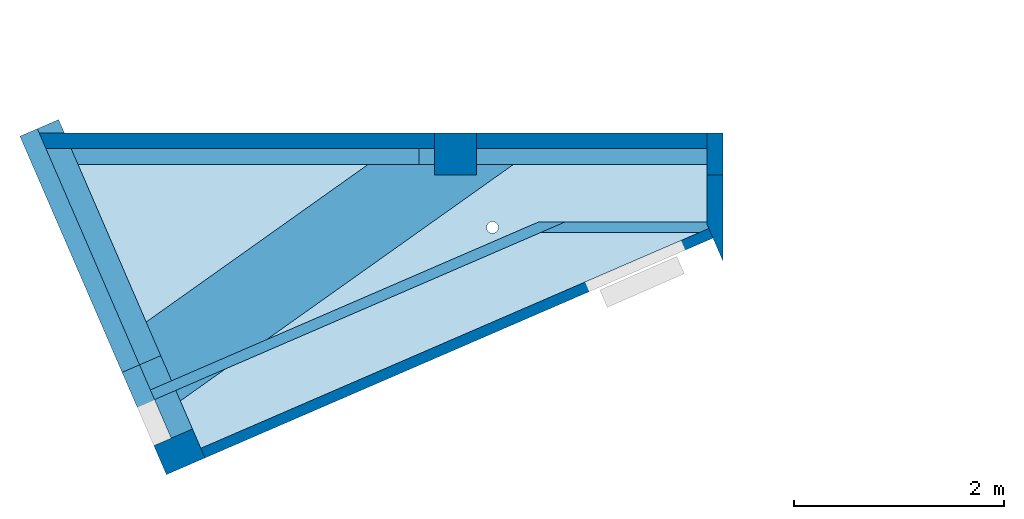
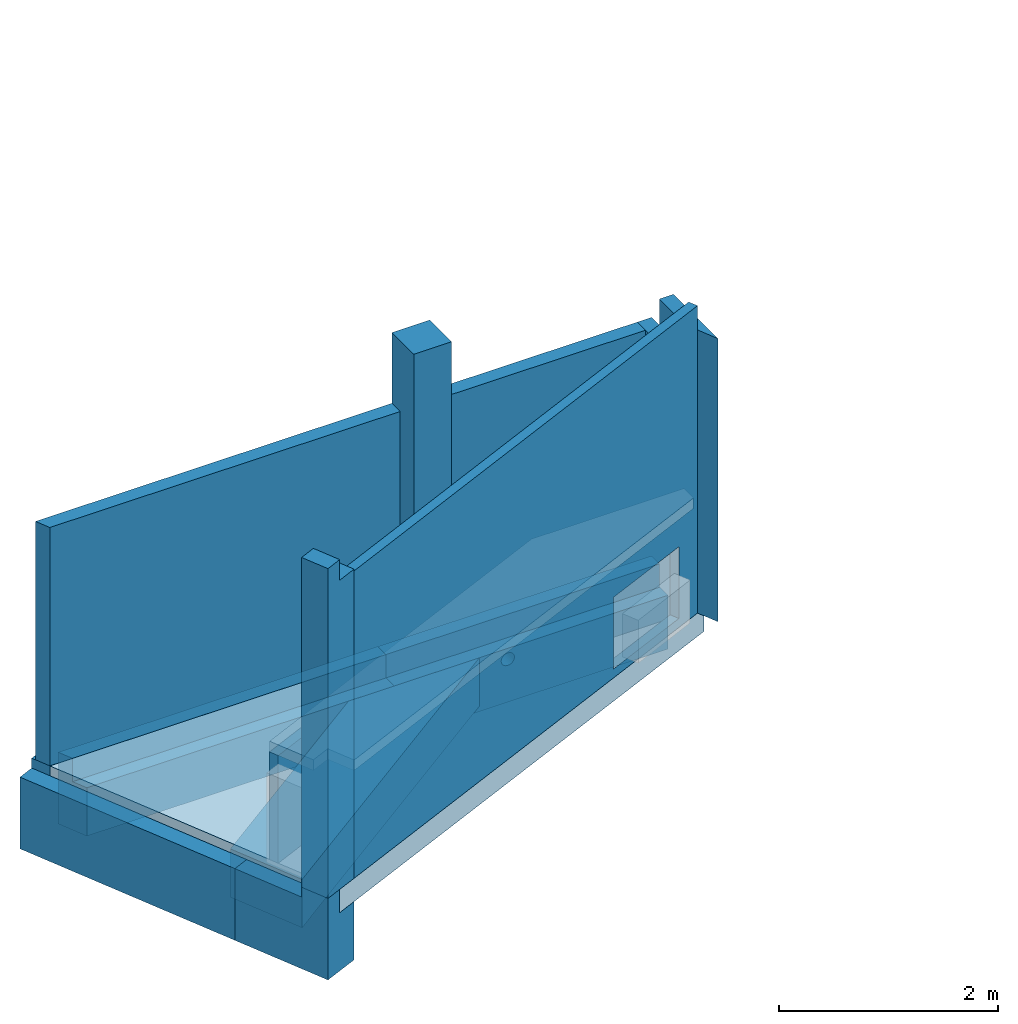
# One storey, part 1 of 6: 7 walls, 5 beams, 2 columns, 2 slabs, 2 openings.
"""IFC2X3 building model written with IfcOpenShell, lengths in centimetres."""

import ifcopenshell
import ifcopenshell.guid

model = None  # the IFC model being written
_history = None  # IfcOwnerHistory: only IFC2X3 demands one
_inside = {}  # id of a spatial element -> (the spatial element, [elements in it])
_under = {}  # id of a project, library or spatial element -> (it, [spatial elements below it])
_declared = {}  # id of a project -> (the project, [libraries it declares])
_typed = {}  # id of a type object -> (the type object, [elements of that type])
_made_of = {}  # id of a material, layer set ... -> (it, [elements and type objects made of it])


def new_model(schema):
    """Start an empty IFC model of exactly this schema.

    Asked for "IFC4X3", IfcOpenShell would pick the latest addendum, in which some entities
    have other attributes; the version numbers below select the first issue.
    IFC2X3 requires an IfcOwnerHistory on every rooted entity: one is made here for all.
    """
    global model, _history
    if schema == "IFC4X3":
        model = ifcopenshell.file(schema_version=(4, 3, 0, 0))
    else:
        model = ifcopenshell.file(schema=schema)
    _inside.clear()
    _under.clear()
    _declared.clear()
    _typed.clear()
    _made_of.clear()
    _history = None
    if model.schema == "IFC2X3":
        org = make("IfcOrganization", Name="unknown")
        user = make(
            "IfcPersonAndOrganization",
            ThePerson=make("IfcPerson", FamilyName="unknown"),
            TheOrganization=org,
        )
        app = make(
            "IfcApplication",
            ApplicationDeveloper=org,
            Version="unknown",
            ApplicationFullName="unknown",
            ApplicationIdentifier="unknown",
        )
        _history = make(
            "IfcOwnerHistory",
            OwningUser=user,
            OwningApplication=app,
            ChangeAction="ADDED",
            CreationDate=0,
        )
    return model


def make(cls, **values):
    """One entity of the class cls with the attributes given. An attribute that is None is left unset."""
    return model.create_entity(
        cls, **{name: value for name, value in values.items() if value is not None}
    )


def entity(cls, *values):
    """Any entity or typed value of the class cls, its attributes in the order of the schema. None: left unset."""
    e = model.create_entity(cls)
    for i, value in enumerate(values):
        if value is not None:
            e[i] = value
    return e


def rooted(cls, **values):
    """An entity with a GlobalId (a new one), such as an element, a storey or a relation."""
    return make(cls, GlobalId=ifcopenshell.guid.new(), OwnerHistory=_history, **values)


def si_unit(unit_type, name, prefix=None):
    """IfcSIUnit, for example si_unit("LENGTHUNIT", "METRE", prefix="MILLI")."""
    return make("IfcSIUnit", UnitType=unit_type, Prefix=prefix, Name=name)


def converted_unit(unit_type, name, factor, base, dimensions=None, offset=None):
    """IfcConversionBasedUnit, such as the inch: factor (a typed value) times the base unit."""
    return make(
        "IfcConversionBasedUnit"
        if offset is None
        else "IfcConversionBasedUnitWithOffset",
        ConversionOffset=offset,
        Dimensions=None
        if dimensions is None
        else entity("IfcDimensionalExponents", *dimensions),
        UnitType=unit_type,
        Name=name,
        ConversionFactor=make(
            "IfcMeasureWithUnit", ValueComponent=factor, UnitComponent=base
        ),
    )


def derived_unit(unit_type, elements):
    """IfcDerivedUnit: a product of units, each with its exponent."""
    return make(
        "IfcDerivedUnit",
        Elements=[
            make("IfcDerivedUnitElement", Unit=unit, Exponent=power)
            for unit, power in elements
        ],
        UnitType=unit_type,
    )


def assignment(units):
    """IfcUnitAssignment: the units of a project."""
    return None if units is None else make("IfcUnitAssignment", Units=units)


def point(xyz):
    """IfcCartesianPoint."""
    return None if xyz is None else make("IfcCartesianPoint", Coordinates=xyz)


def direction(xyz):
    """IfcDirection."""
    return None if xyz is None else make("IfcDirection", DirectionRatios=xyz)


def frame(location, z_axis=None, x_axis=None):
    """IfcAxis2Placement3D, a coordinate frame: its origin and axes. An axis left out is left unset."""
    return make(
        "IfcAxis2Placement3D",
        Location=point(location),
        Axis=direction(z_axis),
        RefDirection=direction(x_axis),
    )


def frame_2d(location, x_axis=None):
    """IfcAxis2Placement2D, a coordinate frame in the plane: its origin and x axis."""
    return make(
        "IfcAxis2Placement2D", Location=point(location), RefDirection=direction(x_axis)
    )


def origin():
    """The frame at (0, 0, 0) with its axes left unset."""
    return frame((0.0, 0.0, 0.0))


def origin_2d_with_axis():
    """The frame at (0, 0) in the plane with the x axis (1, 0) written out."""
    return frame_2d((0.0, 0.0), x_axis=(1.0, 0.0))


def place(relative_to, where):
    """IfcLocalPlacement: puts the frame where relative to a parent placement (None: the world)."""
    return make(
        "IfcLocalPlacement", PlacementRelTo=relative_to, RelativePlacement=where
    )


def context(
    kind, dimensions, precision=None, world=None, true_north=None, identifier=None
):
    """IfcGeometricRepresentationContext, for example the 3D "Model" context."""
    return make(
        "IfcGeometricRepresentationContext",
        ContextIdentifier=identifier,
        ContextType=kind,
        CoordinateSpaceDimension=dimensions,
        Precision=precision,
        WorldCoordinateSystem=world,
        TrueNorth=true_north,
    )


def subcontext(parent, identifier, kind, view, scale=None):
    """IfcGeometricRepresentationSubContext, for example "Body" below "Model"."""
    return make(
        "IfcGeometricRepresentationSubContext",
        ContextIdentifier=identifier,
        ContextType=kind,
        ParentContext=parent,
        TargetScale=scale,
        TargetView=view,
    )


def project(units=None, contexts=None):
    """IfcProject with its units and contexts."""
    return rooted(
        "IfcProject",
        Name="project",
        RepresentationContexts=contexts,
        UnitsInContext=assignment(units),
    )


def spatial(cls, under=None, at=None, **own):
    """A site, building, storey or space (cls), placed at a placement, below another one or the project."""
    s = rooted(cls, ObjectPlacement=at, **own)
    if under is not None:
        _under.setdefault(under.id(), (under, []))[1].append(s)
    return s


def polyline(points):
    """IfcPolyline through the points."""
    return make("IfcPolyline", Points=[point(p) for p in points])


def profile(cls, at=None, kind="AREA", **sizes):
    """A parametric profile (cls). Its sizes go by their IFC names, for example OverallWidth=200.0."""
    return make(cls, ProfileType=kind, Position=at, **sizes)


def rectangle(**sizes):
    """IfcRectangleProfileDef."""
    return profile("IfcRectangleProfileDef", **sizes)


def circle(**sizes):
    """IfcCircleProfileDef."""
    return profile("IfcCircleProfileDef", **sizes)


def outline(outer, holes=None, kind="AREA"):
    """IfcArbitraryClosedProfileDef: a profile drawn as a closed curve; with holes, ...WithVoids."""
    if holes is None:
        return make("IfcArbitraryClosedProfileDef", ProfileType=kind, OuterCurve=outer)
    return make(
        "IfcArbitraryProfileDefWithVoids",
        ProfileType=kind,
        OuterCurve=outer,
        InnerCurves=holes,
    )


def extrude(swept, where, along, depth):
    """IfcExtrudedAreaSolid: the profile swept, set in the frame where, extruded along a direction by depth."""
    return make(
        "IfcExtrudedAreaSolid",
        SweptArea=swept,
        Position=where,
        ExtrudedDirection=direction(along),
        Depth=depth,
    )


def boolean(op, a, b):
    """IfcBooleanResult of two solids."""
    return make("IfcBooleanResult", Operator=op, FirstOperand=a, SecondOperand=b)


def clip(a, b, op="DIFFERENCE"):
    """IfcBooleanClippingResult: the solid a cut by the half space b."""
    return make(
        "IfcBooleanClippingResult", Operator=op, FirstOperand=a, SecondOperand=b
    )


def halfspace(plane, agree):
    """IfcHalfSpaceSolid: all space on one side of the plane z = 0 of the frame plane."""
    return make(
        "IfcHalfSpaceSolid",
        BaseSurface=make("IfcPlane", Position=plane),
        AgreementFlag=agree,
    )


def bounded_halfspace(plane, agree, where, boundary):
    """IfcPolygonalBoundedHalfSpace: a half space limited to a polygon's prism."""
    return make(
        "IfcPolygonalBoundedHalfSpace",
        BaseSurface=make("IfcPlane", Position=plane),
        AgreementFlag=agree,
        Position=where,
        PolygonalBoundary=boundary,
    )


def faces_of(points, faces, orient=None, outer=None):
    """IfcFace entities. A face is a list of loops; a loop is a list of indices into points, from 0.

    orient and outer hold one flag for each loop. By default every Orientation is true, the
    first loop of a face is its IfcFaceOuterBound and the others are IfcFaceBound.
    """
    made = []
    for i, loops in enumerate(faces):
        bounds = []
        for j, loop in enumerate(loops):
            is_outer = j == 0 if outer is None else outer[i][j]
            bounds.append(
                make(
                    "IfcFaceOuterBound" if is_outer else "IfcFaceBound",
                    Bound=make("IfcPolyLoop", Polygon=[points[k] for k in loop]),
                    Orientation=True if orient is None else orient[i][j],
                )
            )
        made.append(make("IfcFace", Bounds=bounds))
    return made


def faceted_brep(points, faces, orient=None, outer=None, voids=None):
    """IfcFacetedBrep: a solid bounded by flat faces; with voids (closed shells), ...WithVoids."""
    shared = [point(p) for p in points]
    hull = make("IfcClosedShell", CfsFaces=faces_of(shared, faces, orient, outer))
    if voids is None:
        return make("IfcFacetedBrep", Outer=hull)
    return make(
        "IfcFacetedBrepWithVoids",
        Outer=hull,
        Voids=[
            make(cls, CfsFaces=faces_of(shared, fs, o, b)) for cls, fs, o, b in voids
        ],
    )


def shape(context_of_items, identifier, shape_type, items):
    """IfcShapeRepresentation: the items that make up one representation, for example the "Body"."""
    return make(
        "IfcShapeRepresentation",
        ContextOfItems=context_of_items,
        RepresentationIdentifier=identifier,
        RepresentationType=shape_type,
        Items=items,
    )


def source(mapping_origin, context_of_items, identifier, shape_type, items):
    """IfcRepresentationMap: a shape defined once, which mapped items show again and again."""
    return make(
        "IfcRepresentationMap",
        MappingOrigin=mapping_origin,
        MappedRepresentation=shape(context_of_items, identifier, shape_type, items),
    )


def transform(
    local_origin,
    x_axis=None,
    y_axis=None,
    z_axis=None,
    scale=None,
    scale2=None,
    scale3=None,
    uniform=True,
):
    """IfcCartesianTransformationOperator3D, or its non-uniform kind. x_axis, y_axis, z_axis: its Axis1, 2, 3."""
    if uniform:
        return make(
            "IfcCartesianTransformationOperator3D",
            Axis1=direction(x_axis),
            Axis2=direction(y_axis),
            LocalOrigin=point(local_origin),
            Scale=scale,
            Axis3=direction(z_axis),
        )
    return make(
        "IfcCartesianTransformationOperator3DnonUniform",
        Axis1=direction(x_axis),
        Axis2=direction(y_axis),
        LocalOrigin=point(local_origin),
        Scale=scale,
        Axis3=direction(z_axis),
        Scale2=scale2,
        Scale3=scale3,
    )


def mapped(mapping_source, mapping_target):
    """IfcMappedItem: shows the shape of a source again, moved by a transform."""
    return make(
        "IfcMappedItem", MappingSource=mapping_source, MappingTarget=mapping_target
    )


def material(Name=None, Category=None):
    """IfcMaterial."""
    return make("IfcMaterial", Name=Name, Category=Category)


def layer(
    of_material, thickness, ventilated=None, Name=None, Category=None, Priority=None
):
    """IfcMaterialLayer: one layer of a wall or slab, of a material (None: an air gap)."""
    return make(
        "IfcMaterialLayer",
        Material=of_material,
        LayerThickness=thickness,
        IsVentilated=ventilated,
        Name=Name,
        Category=Category,
        Priority=Priority,
    )


def layer_set(layers, Name=None):
    """IfcMaterialLayerSet."""
    return make("IfcMaterialLayerSet", MaterialLayers=layers, LayerSetName=Name)


def layer_usage(for_layer_set, set_direction, sense, offset, extent=None):
    """IfcMaterialLayerSetUsage: how a layer set lies in its element."""
    return make(
        "IfcMaterialLayerSetUsage",
        ForLayerSet=for_layer_set,
        LayerSetDirection=set_direction,
        DirectionSense=sense,
        OffsetFromReferenceLine=offset,
        ReferenceExtent=extent,
    )


def made_of(thing, what):
    """Note that an element or type object is made of a material, layer set ...; save() writes the relation."""
    if what is not None:
        _made_of.setdefault(what.id(), (what, []))[1].append(thing)
    return thing


def type_object(cls, material=None, **own):
    """A type object (cls), such as IfcWallType, which elements share."""
    return made_of(rooted(cls, **own), material)


def type_shapes(of_type, sources):
    """Give a type object the sources (RepresentationMaps) that its elements show as mapped items."""
    of_type.RepresentationMaps = sources


def element(
    cls,
    number,
    at=None,
    inside=None,
    cuts=None,
    type_object=None,
    material=None,
    context=None,
    identifier="Body",
    shape_type=None,
    held_by="IfcProductDefinitionShape",
    body=None,
    shapes=None,
    **own,
):
    """One element of the class cls, such as IfcWall. Its Tag is "e" and its number.

    at: its placement. inside: the storey or other place that contains it. cuts: it is an
    opening in that element (IfcRelVoidsElement). A single representation is given by context,
    identifier, shape_type and body (its items); several are given by shapes. held_by: the class
    of the entity that holds the representations. save() writes the other relations.
    """
    e = rooted(cls, Tag="e%d" % number, ObjectPlacement=at, **own)
    if body is not None:
        shapes = [shape(context, identifier, shape_type, body)]
    if shapes is not None:
        e.Representation = make(held_by, Representations=shapes)
    if inside is not None:
        _inside.setdefault(inside.id(), (inside, []))[1].append(e)
    if cuts is not None:
        rooted(
            "IfcRelVoidsElement", RelatingBuildingElement=cuts, RelatedOpeningElement=e
        )
    if type_object is not None:
        _typed.setdefault(type_object.id(), (type_object, []))[1].append(e)
    return made_of(e, material)


def aggregate(whole, parts):
    """IfcRelAggregates: a whole, such as a stair, and the parts it consists of."""
    return rooted("IfcRelAggregates", RelatingObject=whole, RelatedObjects=parts)


def save(model, path):
    """Write the relations noted so far, then the file.

    IfcRelAggregates (storeys below a building ...), IfcRelContainedInSpatialStructure (elements
    in a storey), IfcRelDefinesByType, IfcRelAssociatesMaterial and IfcRelDeclares: one each for
    every whole, place, type object, material and project.
    """
    for whole, parts in _under.values():
        aggregate(whole, parts)
    for where, things in _inside.values():
        rooted(
            "IfcRelContainedInSpatialStructure",
            RelatedElements=things,
            RelatingStructure=where,
        )
    for kind, things in _typed.values():
        rooted("IfcRelDefinesByType", RelatedObjects=things, RelatingType=kind)
    for what, things in _made_of.values():
        rooted("IfcRelAssociatesMaterial", RelatedObjects=things, RelatingMaterial=what)
    for by, libraries in _declared.values():
        rooted("IfcRelDeclares", RelatingContext=by, RelatedDefinitions=libraries)
    model.write(path)


model = new_model("IFC2X3")

# Units and contexts
model_context = context("Model", 3, precision=0.001, world=origin(), true_north=direction((6.12303176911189e-17, 1.0)))
body_context = subcontext(model_context, "Body", "Model", "MODEL_VIEW")
ifc_project = project(units=[si_unit("LENGTHUNIT", "METRE", prefix="CENTI"), si_unit("AREAUNIT", "SQUARE_METRE"), si_unit("VOLUMEUNIT", "CUBIC_METRE"), converted_unit("PLANEANGLEUNIT", "DEGREE", entity("IfcRatioMeasure", 0.0174532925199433), si_unit("PLANEANGLEUNIT", "RADIAN"), dimensions=[0, 0, 0, 0, 0, 0, 0]), si_unit("MASSUNIT", "GRAM", prefix="KILO"), derived_unit("MASSDENSITYUNIT", [(si_unit("MASSUNIT", "GRAM", prefix="KILO"), 1), (si_unit("LENGTHUNIT", "METRE"), -3)]), si_unit("TIMEUNIT", "SECOND"), si_unit("FREQUENCYUNIT", "HERTZ"), si_unit("THERMODYNAMICTEMPERATUREUNIT", "DEGREE_CELSIUS"), derived_unit("THERMALTRANSMITTANCEUNIT", [(si_unit("MASSUNIT", "GRAM", prefix="KILO"), 1), (si_unit("THERMODYNAMICTEMPERATUREUNIT", "KELVIN"), -1), (si_unit("TIMEUNIT", "SECOND"), -3)]), derived_unit("VOLUMETRICFLOWRATEUNIT", [(si_unit("LENGTHUNIT", "METRE"), 3), (si_unit("TIMEUNIT", "SECOND"), -1)]), si_unit("ELECTRICCURRENTUNIT", "AMPERE"), si_unit("ELECTRICVOLTAGEUNIT", "VOLT"), si_unit("POWERUNIT", "WATT"), si_unit("FORCEUNIT", "NEWTON"), si_unit("ILLUMINANCEUNIT", "LUX"), si_unit("LUMINOUSFLUXUNIT", "LUMEN"), si_unit("LUMINOUSINTENSITYUNIT", "CANDELA"), derived_unit("USERDEFINED", [(si_unit("MASSUNIT", "GRAM", prefix="KILO"), -1), (si_unit("LENGTHUNIT", "METRE"), -2), (si_unit("TIMEUNIT", "SECOND"), 3), (si_unit("LUMINOUSFLUXUNIT", "LUMEN"), 1)]), derived_unit("LINEARVELOCITYUNIT", [(si_unit("LENGTHUNIT", "METRE"), 1), (si_unit("TIMEUNIT", "SECOND"), -1)]), si_unit("PRESSUREUNIT", "PASCAL"), derived_unit("USERDEFINED", [(si_unit("LENGTHUNIT", "METRE"), -2), (si_unit("MASSUNIT", "GRAM", prefix="KILO"), 1), (si_unit("TIMEUNIT", "SECOND"), -2)])], contexts=[model_context])

# Site, building, storey
site_placement = place(None, origin())
site = spatial("IfcSite", under=ifc_project, at=site_placement, Name="Default", CompositionType="ELEMENT")
building_placement = place(site_placement, origin())
building = spatial("IfcBuilding", under=site, at=building_placement, Name="CAGE 03", CompositionType="ELEMENT")
storey_placement = place(building_placement, frame((0.0, 0.0, -23.0)))
storey = spatial("IfcBuildingStorey", under=building, at=storey_placement, Name="+3.77", CompositionType="ELEMENT", Elevation=-23.0000000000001)

# Columns
ifc_material_1 = material(Name="Béton, C25/30")
column_type_1 = type_object("IfcColumnType", Name="40x40", PredefinedType="COLUMN", material=ifc_material_1)
shared_shape_1 = source(origin(), body_context, "Body", "SweptSolid", [
    extrude(rectangle(XDim=40.0, YDim=40.0, at=frame_2d((2.16715534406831e-13, -2.16715534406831e-13), x_axis=(1.0, 0.0))), frame((3684.36582014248, 3811.66066607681, 240.0), z_axis=(0.0, 0.0, 1.0), x_axis=(0.0, -1.0, 0.0)), (0.0, 0.0, 1.0), 77.0),
    extrude(rectangle(XDim=40.0, YDim=40.0, at=frame_2d((2.16715534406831e-13, -2.16715534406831e-13), x_axis=(1.0, 0.0))), frame((3684.36582014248, 3811.66066607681, -28.0), z_axis=(0.0, 0.0, 1.0), x_axis=(0.0, -1.0, 0.0)), (0.0, 0.0, 1.0), 268.0),
])
type_shapes(column_type_1, [shared_shape_1])
column_1_placement = place(storey_placement, frame((0.0, 0.0, 23.0)))
element("IfcColumn", 1, at=column_1_placement, inside=storey, type_object=column_type_1, material=ifc_material_1, Name="BBGO-Poteau rect:40x40", ObjectType="40x40", context=body_context, shape_type="MappedRepresentation", body=[
    mapped(shared_shape_1, transform((0.0, 0.0, 0.0), scale=1.0)),
])
column_type_2 = type_object("IfcColumnType", Name="30x40", PredefinedType="COLUMN", material=ifc_material_1)
shared_shape_2 = source(origin(), body_context, "Body", "SweptSolid", [
    extrude(rectangle(XDim=30.000000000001, YDim=18.0000000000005, at=frame_2d((-3.70370401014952e-13, -3.11750625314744e-13), x_axis=(1.0, 0.0))), frame((3411.48235076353, 3523.90430444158, 317.0), z_axis=(0.0, 0.0, 1.0), x_axis=(-0.397106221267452, 0.91777265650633, 0.0)), (0.0, 0.0, 1.0), 23.0),
    extrude(rectangle(XDim=29.9999999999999, YDim=40.0000000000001, at=origin_2d_with_axis()), frame((3421.5778499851, 3528.27247287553, -28.0), z_axis=(0.0, 0.0, 1.0), x_axis=(-0.397106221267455, 0.917772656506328, 0.0)), (0.0, 0.0, 1.0), 345.0),
])
type_shapes(column_type_2, [shared_shape_2])
column_2_placement = place(storey_placement, frame((0.0, 0.0, 23.0)))
element("IfcColumn", 2, at=column_2_placement, inside=storey, type_object=column_type_2, material=ifc_material_1, Name="BBGO-Poteau rect:30x40", ObjectType="30x40", context=body_context, shape_type="MappedRepresentation", body=[
    mapped(shared_shape_2, transform((0.0, 0.0, 0.0), scale=1.0)),
])

# Beams
beam_type_1 = type_object("IfcBeamType", Name="BBGO-Poutre rect:30x80ht", PredefinedType="BEAM")
beam_1_placement = place(storey_placement, frame((3278.32087011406, 3831.66066607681, 0.0)))
element("IfcBeam", 3, at=beam_1_placement, inside=storey, type_object=beam_type_1, material=ifc_material_1, Name="BBGO-Poutre rect:30x80ht", ObjectType="BBGO-Poutre rect:30x80ht", context=body_context, shape_type="Clipping", body=[
    clip(extrude(outline(polyline([(-9.33333333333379, -15.0), (44.6666666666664, -15.0), (44.6666666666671, 15.0), (-35.3333333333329, 15.0), (-35.3333333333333, 0.0), (-9.33333333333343, 0.0), (-9.33333333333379, -15.0)])), frame((33.7774281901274, -15.0, -40.3333333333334), z_axis=(1.0, 0.0, 0.0), x_axis=(0.0, 0.0, -1.0)), (0.0, 0.0, 1.0), 337.267521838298), halfspace(frame((28.3141400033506, 12.6264869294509, -5.0), z_axis=(-0.917772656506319, -0.397106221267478, 0.0), x_axis=(0.397106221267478, -0.917772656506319, 0.0)), False)),
])
beam_type_2 = type_object("IfcBeamType", Name="BBGO-Poutre rect:80x80ht", PredefinedType="BEAM")
beam_2_placement = place(storey_placement, frame((3380.33750104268, 3595.88477196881, 0.0), z_axis=(0.0, 0.0, 1.0), x_axis=(0.815489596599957, 0.578771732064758, 0.0)))
element("IfcBeam", 4, at=beam_2_placement, inside=storey, type_object=beam_type_2, material=ifc_material_1, Name="BBGO-Poutre rect:80x80ht", ObjectType="BBGO-Poutre rect:80x80ht", context=body_context, shape_type="Clipping", body=[
    clip(clip(extrude(rectangle(XDim=54.0000000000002, YDim=80.0000000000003, at=frame_2d((7.105427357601e-15, 0.0), x_axis=(1.0, 0.0))), frame((23.2106201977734, 0.0, -58.0), z_axis=(1.0, 0.0, 0.0), x_axis=(0.0, 0.0, -1.0)), (0.0, 0.0, 1.0), 388.688345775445), halfspace(frame((32.9327301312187, 5.8696074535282, -5.0), z_axis=(-0.978267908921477, 0.207344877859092, 0.0), x_axis=(-0.207344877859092, -0.978267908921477, 0.0)), False)), halfspace(frame((574.163559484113, -155.162915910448, -5.0), z_axis=(0.578771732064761, 0.815489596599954, 0.0), x_axis=(-0.815489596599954, 0.578771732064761, 0.0)), False)),
])
beam_type_3 = type_object("IfcBeamType", Name="BBGO-Poutre rect:40x91ht", PredefinedType="BEAM")
beam_3_placement = place(storey_placement, frame((3367.08573071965, 3506.56375860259, -96.0), z_axis=(0.0, 0.0, 1.0), x_axis=(-0.397106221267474, 0.91777265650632, 0.0)))
element("IfcBeam", 5, at=beam_3_placement, inside=storey, type_object=beam_type_3, material=ifc_material_1, Name="BBGO-Poutre rect:40x91ht", ObjectType="BBGO-Poutre rect:40x91ht", context=body_context, shape_type="Brep", body=[
    faceted_brep([(-16.7154952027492, -78.6320425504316, 0.0), (89.2845047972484, -78.6320425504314, 0.0), (89.2845047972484, -78.6320425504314, 65.0), (42.3959101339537, -78.6320425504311, 65.0), (-16.7154952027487, -78.6320425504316, 65.0), (-16.7154952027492, -38.6320425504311, 0.0), (89.2845047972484, -38.6320425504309, 0.0), (-16.7154952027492, -38.6320425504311, 91.0), (13.2845047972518, -38.6320425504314, 91.0), (13.2845047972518, -38.6320425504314, 80.0), (89.2845047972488, -38.6320425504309, 80.0), (-16.7154952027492, -56.6320425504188, 91.0), (13.2845047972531, -56.6320425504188, 91.0), (13.284504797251, -56.6320425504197, 80.0), (89.2845047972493, -56.632042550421, 80.0), (89.284504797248, -56.6320425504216, 65.0), (-16.7154952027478, -56.6320425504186, 65.0)], [[[0, 1, 2, 3, 4]], [[1, 0, 5, 6]], [[6, 5, 7, 8, 9, 10]], [[8, 7, 11, 12]], [[10, 9, 13, 14]], [[15, 16, 4, 3, 2]], [[16, 15, 14, 13, 12, 11]], [[1, 6, 10, 14, 15, 2]], [[13, 9, 8, 12]], [[7, 5, 0, 4, 16, 11]]]),
])
beam_4_placement = place(storey_placement, frame((3269.92410385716, 3603.84766019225, -96.0), z_axis=(0.0, 0.0, 1.0), x_axis=(-0.397106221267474, 0.91777265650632, 0.0)))
element("IfcBeam", 6, at=beam_4_placement, inside=storey, type_object=beam_type_3, material=ifc_material_1, Name="BBGO-Poutre rect:40x91ht", ObjectType="BBGO-Poutre rect:40x91ht", context=body_context, shape_type="Brep", body=[
    faceted_brep([(206.090662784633, -129.172284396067, 91.0), (206.090662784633, -129.172284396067, 80.0), (206.090662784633, -129.172284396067, 0.0), (206.090662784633, -89.1722843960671, 0.0), (206.090662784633, -89.1722843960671, 80.0), (206.090662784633, -107.172284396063, 80.0), (206.090662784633, -107.172284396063, 91.0), (192.332912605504, -129.172284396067, 91.0), (175.988995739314, -129.172284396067, 91.0), (175.988995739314, -129.172284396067, 65.0), (159.645078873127, -129.172284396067, 65.0), (-3.69489183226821, -129.172284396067, 65.0), (-38.5834864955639, -129.172284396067, 65.0), (-38.5834864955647, -129.172284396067, 0.0), (-38.5834864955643, -89.1722843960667, 0.0), (143.152419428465, -89.1722843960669, 0.0), (-38.5834864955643, -89.1722843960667, 80.0), (201.851976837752, -107.172284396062, 91.0), (185.508059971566, -107.172284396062, 91.0), (185.508059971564, -107.172284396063, 65.0), (-38.5834864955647, -107.172284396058, 65.0), (185.508059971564, -107.172284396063, 80.0), (-38.5834864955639, -107.172284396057, 80.0)], [[[0, 1, 2, 3, 4, 5, 6]], [[2, 1, 0, 7, 8, 9, 10, 11, 12, 13]], [[3, 2, 13, 14, 15]], [[3, 15, 14, 16, 4]], [[8, 7, 0, 6, 17, 18]], [[9, 19, 20, 12, 11, 10]], [[20, 19, 21, 22]], [[19, 9, 8, 18, 21]], [[5, 21, 18, 17, 6]], [[21, 5, 4, 16, 22]], [[14, 13, 12, 20, 22, 16]]]),
])
beam_type_4 = type_object("IfcBeamType", Name="BBGO-Poutre rect:30x86ht", PredefinedType="BEAM")
beam_5_placement = place(storey_placement, frame((3649.36582014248, 3831.66066607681, 0.0)))
element("IfcBeam", 7, at=beam_5_placement, inside=storey, type_object=beam_type_4, material=ifc_material_1, Name="BBGO-Poutre rect:30x86ht", ObjectType="BBGO-Poutre rect:30x86ht", context=body_context, shape_type="CSG", body=[
    boolean("DIFFERENCE", extrude(outline(polyline([(-15.0, -48.6666666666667), (15.0, -48.6666666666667), (15.0, 37.3333333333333), (0.0, 37.3333333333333), (0.0, 11.3333333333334), (-15.0, 11.3333333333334), (-15.0, -48.6666666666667)])), frame((0.0, -15.0, -42.3333333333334), z_axis=(1.0, 0.0, 0.0), x_axis=(0.0, 1.0, 0.0)), (0.0, 0.0, 1.0), 288.999999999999), extrude(circle(Radius=7.0, at=frame_2d((0.0, 1.35358391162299e-14), x_axis=(1.0, 0.0))), frame((120.0, 0.0, -43.0), z_axis=(0.0, -1.0, 0.0), x_axis=(1.0, 0.0, 0.0)), (0.0, 0.0, 1.0), 30.0000000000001)),
])

# Slab, opening
ifc_layer_1 = layer(ifc_material_1, 26.0)
ifc_layer_set_1 = layer_set([ifc_layer_1], Name="Sol:Dalle Béton - 26 cm")
ifc_layer_usage_1 = layer_usage(ifc_layer_set_1, "AXIS3", "POSITIVE", 0.0)
slab_1_placement = place(storey_placement, frame((3294.61749130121, 3513.7116705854, -31.0)))
slab_1 = element("IfcSlab", 8, at=slab_1_placement, inside=storey, material=ifc_layer_usage_1, Name="Sol:Dalle Béton - 26 cm", ObjectType="Sol:Dalle Béton - 26 cm", PredefinedType="FLOOR", context=body_context, shape_type="SweptSolid", body=[
    extrude(outline(polyline([(-321.925852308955, 151.474497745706), (-321.925852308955, 70.3933841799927), (190.844445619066, -151.474497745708), (321.925852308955, 151.474497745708), (-321.925852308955, 151.474497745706)])), frame((321.925852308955, 151.474497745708, 26.0), z_axis=(0.0, 0.0, -1.0), x_axis=(-1.0, 0.0, 0.0)), (0.0, 0.0, 1.0), 26.0),
])
opening_1_placement = place(slab_1_placement, origin())
element("IfcOpeningElement", 9, at=opening_1_placement, cuts=slab_1, ObjectType="Opening", context=body_context, shape_type="SweptSolid", body=[
    extrude(circle(Radius=5.5, at=origin_2d_with_axis()), frame((424.74832884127, 227.96559838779, 0.0)), (0.0, 0.0, 1.0), 26.0),
])

# Slab
ifc_layer_2 = layer(ifc_material_1, 12.0)
ifc_layer_set_2 = layer_set([ifc_layer_2], Name="Sol:Dalle Béton - 12 cm")
ifc_layer_usage_2 = layer_usage(ifc_layer_set_2, "AXIS3", "POSITIVE", 0.0)
slab_2_placement = place(storey_placement, origin())
element("IfcSlab", 10, at=slab_2_placement, inside=storey, material=ifc_layer_usage_2, Name="Sol:Dalle Béton - 12 cm", ObjectType="Sol:Dalle Béton - 12 cm", PredefinedType="FLOOR", context=body_context, shape_type="SweptSolid", body=[
    extrude(outline(polyline([(-114.77235834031, -309.59162944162), (-97.2009737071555, -309.59162944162), (109.44030028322, 167.987670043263), (81.9071205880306, 179.900856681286), (90.6434574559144, 200.091855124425), (44.7548120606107, 219.947171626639), (-114.772358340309, -148.744294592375), (-114.77235834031, -309.59162944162)])), frame((3613.8775664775, 3631.8883077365, 127.0), z_axis=(0.0, 0.0, -1.0), x_axis=(0.0, -1.0, 0.0)), (0.0, 0.0, 1.0), 12.0),
])

# Wall, opening
ifc_material_2 = material(Name="Bloc béton")
ifc_layer_3 = layer(ifc_material_2, 10.0)
ifc_layer_set_3 = layer_set([ifc_layer_3], Name="Mur de base:Int. Parpaing 100 mm")
ifc_layer_usage_3 = layer_usage(ifc_layer_set_3, "AXIS2", "NEGATIVE", 5.0)
wall_type_1 = type_object("IfcWallType", Name="Mur de base:Int. Parpaing 100 mm", PredefinedType="STANDARD", material=ifc_layer_set_3)
wall_1_placement = place(storey_placement, frame((3443.90436532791, 3527.03687073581, -5.0), z_axis=(0.0, 0.0, 1.0), x_axis=(0.917772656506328, 0.397106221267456, 0.0)))
wall_1 = element("IfcWallStandardCase", 11, at=wall_1_placement, inside=storey, type_object=wall_type_1, material=ifc_layer_usage_3, Name="Mur de base:Int. Parpaing 100 mm", ObjectType="Mur de base:Int. Parpaing 100 mm", context=body_context, shape_type="Clipping", body=[
    clip(extrude(rectangle(XDim=526.5, YDim=10.0000000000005, at=frame_2d((263.25, 1.38111744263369e-13), x_axis=(-1.0, 0.0))), origin(), (0.0, 0.0, 1.0), 343.0), bounded_halfspace(frame((524.694605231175, 5.0, 120.0), z_axis=(0.917772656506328, -0.397106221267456, 0.0), x_axis=(0.0, 0.0, 1.0)), True, frame((524.694605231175, 5.0, 120.0), z_axis=(0.917772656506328, -0.397106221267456, 0.0), x_axis=(0.0, 0.0, 1.0)), polyline([(0.0, 0.0), (12.0, 0.0), (12.0, 10.8959445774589), (0.0, 10.8959445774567), (0.0, 0.0)]))),
])
opening_2_placement = place(storey_placement, frame((3443.90436532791, 3527.03687073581, -5.0), z_axis=(0.0, 0.0, 1.0), x_axis=(0.917772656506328, 0.397106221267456, 0.0)))
element("IfcOpeningElement", 12, at=opening_2_placement, cuts=wall_1, Name="Mur de base:Int. Parpaing 100 mm:1", ObjectType="Opening", context=body_context, shape_type="SweptSolid", body=[
    extrude(rectangle(XDim=10.0000000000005, YDim=99.9999999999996, at=frame_2d((-2.33191244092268e-12, 6.3948846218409e-14), x_axis=(1.0, 0.0))), frame((448.0, 0.0, 10.0), z_axis=(0.0, 0.0, 1.0), x_axis=(0.0, 1.0, 0.0)), (0.0, 0.0, 1.0), 80.0),
])

# Walls
ifc_layer_usage_4 = layer_usage(ifc_layer_set_3, "AXIS2", "NEGATIVE", 5.0)
wall_2_placement = place(storey_placement, frame((3395.9159259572, 3582.54463239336, -5.0), z_axis=(0.0, 0.0, 1.0), x_axis=(0.917772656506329, 0.397106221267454, 0.0)))
element("IfcWallStandardCase", 13, at=wall_2_placement, inside=storey, type_object=wall_type_1, material=ifc_layer_usage_4, Name="Mur de base:Int. Parpaing 100 mm", ObjectType="Mur de base:Int. Parpaing 100 mm", context=body_context, shape_type="SweptSolid", body=[
    extrude(outline(polyline([(424.835693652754, -5.0), (401.724178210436, 5.0), (0.0, 5.0), (0.0, -5.0), (399.653514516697, -5.0), (424.835693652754, -5.0)])), origin(), (0.0, 0.0, 1.0), 120.0),
])
ifc_layer_usage_5 = layer_usage(ifc_layer_set_3, "AXIS2", "NEGATIVE", 5.0)
wall_3_placement = place(storey_placement, frame((3764.69252476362, 3741.66066607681, -5.0)))
element("IfcWallStandardCase", 14, at=wall_3_placement, inside=storey, type_object=wall_type_1, material=ifc_layer_usage_5, Name="Mur de base:Int. Parpaing 100 mm", ObjectType="Mur de base:Int. Parpaing 100 mm", context=body_context, shape_type="Clipping", body=[
    clip(extrude(outline(polyline([(23.1115154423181, 5.0), (0.0, -5.0), (151.093109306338, -5.0), (160.43361310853, -0.95850656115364), (158.776671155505, 2.87093739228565), (158.776671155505, 5.0), (23.1115154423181, 5.0)])), origin(), (0.0, 0.0, 1.0), 120.0), bounded_halfspace(frame((151.09310930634, -5.0, 120.0), z_axis=(-0.397106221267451, 0.91777265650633, 0.0), x_axis=(-0.91777265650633, -0.397106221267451, 0.0)), True, frame((151.09310930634, -5.0, 120.0), z_axis=(-0.397106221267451, 0.91777265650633, 0.0), x_axis=(-0.91777265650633, -0.397106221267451, 0.0)), polyline([(0.0, 0.0), (-8.37196640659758, 0.0), (-10.1773611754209, 0.0), (-10.177361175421, -120.0), (0.0, -120.0), (0.0, 0.0)]))),
])
ifc_layer_4 = layer(ifc_material_2, 15.0)
ifc_layer_set_4 = layer_set([ifc_layer_4], Name="Mur de base:Int. Parpaing 150 mm")
ifc_layer_usage_6 = layer_usage(ifc_layer_set_4, "AXIS2", "NEGATIVE", 7.5)
wall_type_2 = type_object("IfcWallType", Name="Mur de base:Int. Parpaing 150 mm", PredefinedType="STANDARD", material=ifc_layer_set_4)
wall_4_placement = place(storey_placement, frame((3664.36582014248, 3824.16066607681, -5.0), z_axis=(0.0, 0.0, 1.0), x_axis=(-1.0, 0.0, 0.0)))
element("IfcWallStandardCase", 15, at=wall_4_placement, inside=storey, type_object=wall_type_2, material=ifc_layer_usage_6, Name="Mur de base:Int. Parpaing 150 mm", ObjectType="Mur de base:Int. Parpaing 150 mm", context=body_context, shape_type="SweptSolid", body=[
    extrude(outline(polyline([(376.238599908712, -7.50000000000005), (369.748328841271, 7.49999999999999), (345.777250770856, 7.49999999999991), (15.0, 7.50000000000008), (0.0, 7.50000000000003), (0.0, -7.50000000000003), (15.0, -7.49999999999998), (352.267521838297, -7.50000000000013), (376.238599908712, -7.50000000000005)])), origin(), (0.0, 0.0, 1.0), 266.0),
])
ifc_layer_usage_7 = layer_usage(ifc_layer_set_4, "AXIS2", "NEGATIVE", 7.5)
wall_5_placement = place(storey_placement, frame((3923.46919591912, 3824.16066607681, -5.0), z_axis=(0.0, 0.0, 1.0), x_axis=(-1.0, 0.0, 0.0)))
element("IfcWallStandardCase", 16, at=wall_5_placement, inside=storey, type_object=wall_type_2, material=ifc_layer_usage_7, Name="Mur de base:Int. Parpaing 150 mm", ObjectType="Mur de base:Int. Parpaing 150 mm", context=body_context, shape_type="SweptSolid", body=[
    extrude(rectangle(XDim=219.103375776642, YDim=15.0000000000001, at=frame_2d((109.551687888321, -5.95079541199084e-14), x_axis=(-1.0, 0.0))), origin(), (0.0, 0.0, 1.0), 266.0),
])
ifc_layer_usage_8 = layer_usage(ifc_layer_set_4, "AXIS2", "NEGATIVE", 7.5)
wall_6_placement = place(storey_placement, frame((3930.96919591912, 3709.86433030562, -5.0), z_axis=(0.0, 0.0, 1.0), x_axis=(0.0, 1.0, 0.0)))
element("IfcWallStandardCase", 17, at=wall_6_placement, inside=storey, type_object=wall_type_2, material=ifc_layer_usage_8, Name="Mur de base:Int. Parpaing 150 mm", ObjectType="Mur de base:Int. Parpaing 150 mm", context=body_context, shape_type="SweptSolid", body=[
    extrude(outline(polyline([(81.7963357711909, -7.49999999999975), (81.7963357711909, 7.50000000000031), (36.796335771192, 7.50000000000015), (34.6672731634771, 7.50000000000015), (30.8378292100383, 5.84305804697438), (21.660102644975, 1.87199583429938), (0.0, -7.50000000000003), (25.7152222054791, -7.49999999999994), (81.7963357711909, -7.49999999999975)])), origin(), (0.0, 0.0, 1.0), 316.0),
])
ifc_layer_usage_9 = layer_usage(ifc_layer_set_4, "AXIS2", "NEGATIVE", 7.5)
wall_7_placement = place(storey_placement, frame((3930.96919591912, 3791.66066607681, -5.0), z_axis=(0.0, 0.0, 1.0), x_axis=(0.0, 1.0, 0.0)))
element("IfcWallStandardCase", 18, at=wall_7_placement, inside=storey, type_object=wall_type_2, material=ifc_layer_usage_9, Name="Mur de base:Int. Parpaing 150 mm", ObjectType="Mur de base:Int. Parpaing 150 mm", context=body_context, shape_type="SweptSolid", body=[
    extrude(rectangle(XDim=40.0000000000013, YDim=15.0000000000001, at=frame_2d((20.0000000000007, -3.65041330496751e-13), x_axis=(-1.0, 0.0))), origin(), (0.0, 0.0, 1.0), 266.0),
])

save(model, "model.ifc")
